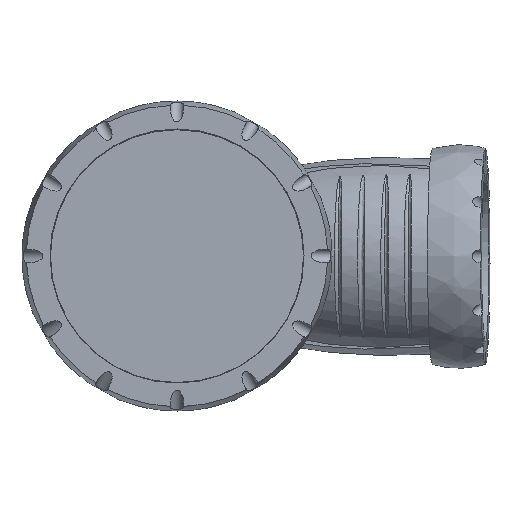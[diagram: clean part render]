
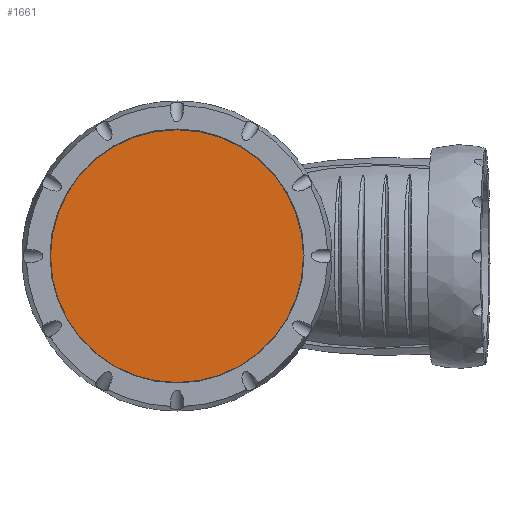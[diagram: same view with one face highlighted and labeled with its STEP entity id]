
A CAD part, top view. The second image highlights one B-rep face of the part: STEP entity #1661.
In plain terms, the highlighted planar face has unit normal (0, 0, 1).
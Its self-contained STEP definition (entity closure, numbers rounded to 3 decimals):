
#225=PLANE('',#1795);
#303=FACE_OUTER_BOUND('',#413,.T.);
#413=EDGE_LOOP('',(#1069));
#551=CIRCLE('',#1796,37.95);
#630=VERTEX_POINT('',#2425);
#810=EDGE_CURVE('',#630,#630,#551,.T.);
#1069=ORIENTED_EDGE('',*,*,#810,.T.);
#1661=ADVANCED_FACE('',(#303),#225,.T.);
#1795=AXIS2_PLACEMENT_3D('',#2424,#1998,#1999);
#1796=AXIS2_PLACEMENT_3D('',#2426,#2000,#2001);
#1998=DIRECTION('center_axis',(0.,0.,
1.));
#1999=DIRECTION('ref_axis',(0.,1.,0.));
#2000=DIRECTION('center_axis',(0.,0.,
1.));
#2001=DIRECTION('ref_axis',(0.,1.,0.));
#2424=CARTESIAN_POINT('Origin',(0.,0.,
117.4));
#2425=CARTESIAN_POINT('',(-37.95,0.,117.4));
#2426=CARTESIAN_POINT('Origin',(0.,0.,
117.4));
